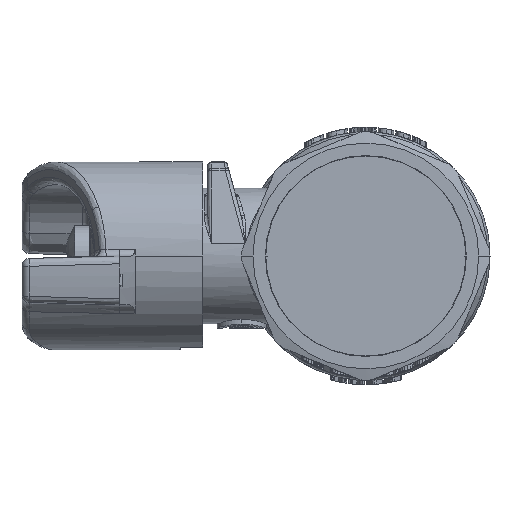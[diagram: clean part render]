
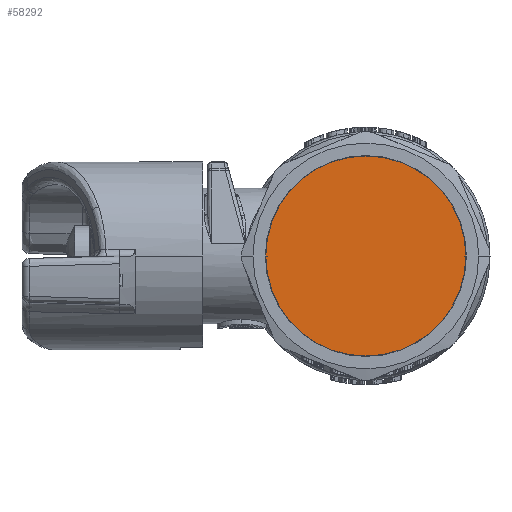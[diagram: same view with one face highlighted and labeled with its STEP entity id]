
A CAD part, left-side view. The second image highlights one B-rep face of the part: STEP entity #58292.
In plain terms, the highlighted planar face has unit normal (-1, 0, 0).
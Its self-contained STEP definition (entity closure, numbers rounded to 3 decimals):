
#58235=CARTESIAN_POINT('',(-31.195,0.,0.));
#58236=DIRECTION('',(-1.,0.,0.));
#58237=DIRECTION('',(0.,-1.,0.));
#58238=AXIS2_PLACEMENT_3D('',#58235,#58236,#58237);
#58244=CARTESIAN_POINT('',(-31.195,0.,0.));
#58245=DIRECTION('',(1.,0.,0.));
#58246=DIRECTION('',(0.,-1.,0.));
#58247=AXIS2_PLACEMENT_3D('',#58244,#58245,#58246);
#58269=CARTESIAN_POINT('',(-31.195,-13.295,0.));
#58271=VERTEX_POINT('',#58269);
#58273=CARTESIAN_POINT('',(-31.195,13.295,0.));
#58275=VERTEX_POINT('',#58273);
#58281=CARTESIAN_POINT('',(-31.195,0.,0.));
#58282=DIRECTION('',(1.,0.,0.));
#58283=DIRECTION('',(0.,-1.,0.));
#58284=AXIS2_PLACEMENT_3D('',#58281,#58282,#58283);
#58285=PLANE('',#58284);
#58287=ORIENTED_EDGE('',*,*,#58286,.F.);
#58289=ORIENTED_EDGE('',*,*,#58288,.T.);
#58290=EDGE_LOOP('',(#58287,#58289));
#58291=FACE_OUTER_BOUND('',#58290,.F.);
#58292=ADVANCED_FACE('',(#58291),#58285,.F.);
#58239=CIRCLE('',#58238,13.295);
#58248=CIRCLE('',#58247,13.295);
#58286=EDGE_CURVE('',#58271,#58275,#58239,.T.);
#58288=EDGE_CURVE('',#58271,#58275,#58248,.T.);
